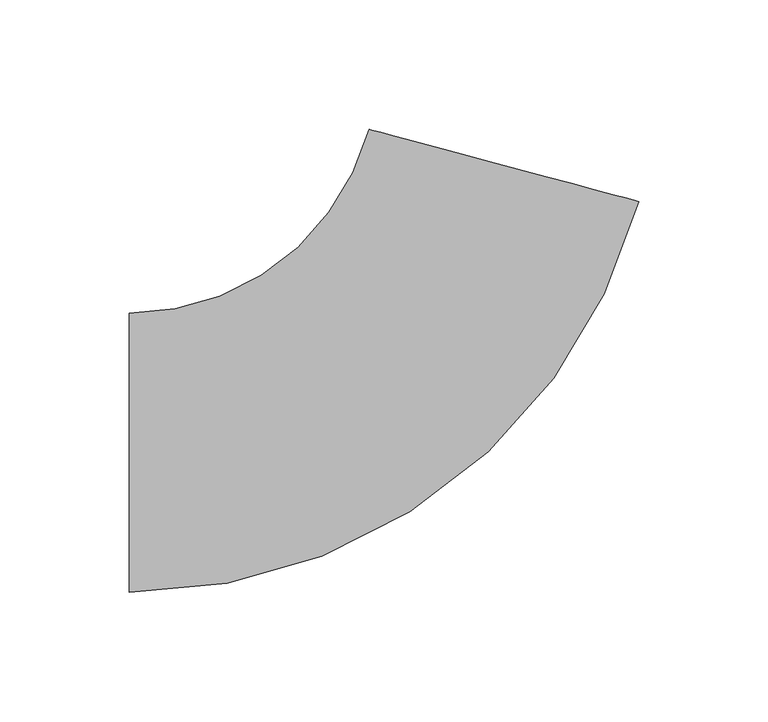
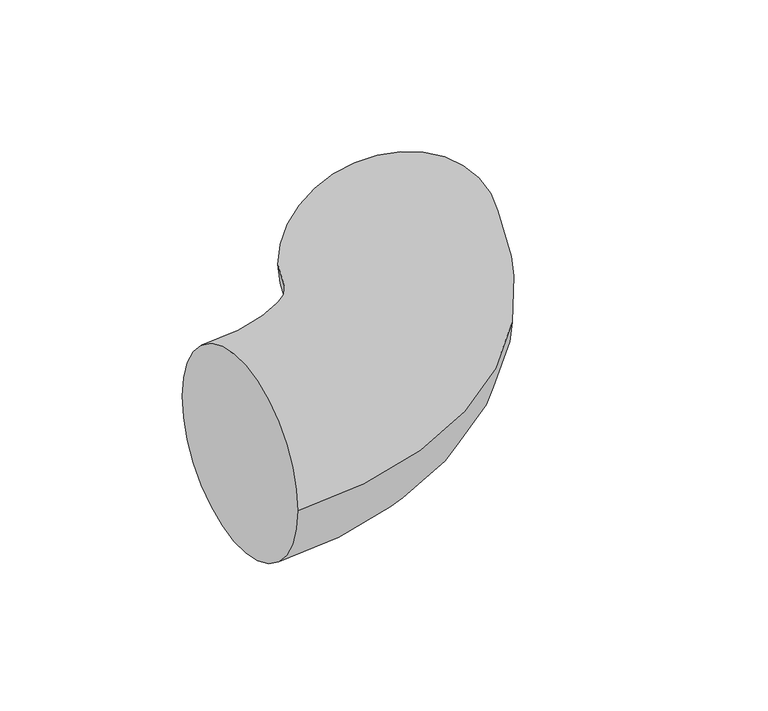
"""IFC4 building model written with IfcOpenShell, lengths in millimetres: pipe fitting geometry, ADSK_ДетальСтальнаяСварная_Отвод_ГОСТ17375-2001 : Исполнение 2."""

from ifc_helpers import new_model, si_unit, point, frame, origin, place, context, project, spatial, circle_curve, ellipse_curve, trimmed, source, transform, mapped, element, save
from ifc_brep_helpers import plane_surface, revolved_surface, advanced_brep


def pipe_fitting_cc9a90fd(model_context):
    return source(origin(), model_context, "Body", "AdvancedBrep", [
        advanced_brep(
        [(-115.0990482, -54.0, 0.0), (-115.0990482, 54.0, 0.0), (81.9498204, 97.2009148, 0.0), (-22.3701689, 125.1533717, 0.0)],
        [
            (0, 1, circle_curve(frame((-115.0990482, 0.0, 0.0), z_axis=(-1.0, 0.0, 0.0), x_axis=(0.0, 1.0, 0.0)), 54.0)),
            (1, 0, circle_curve(frame((-115.0990482, 0.0, 0.0), z_axis=(-1.0, 0.0, 0.0), x_axis=(0.0, 1.0, 0.0)), 54.0)),
            (2, 3, circle_curve(frame((29.7898257, 111.1771432, 0.0), z_axis=(0.2588190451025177, 0.9659258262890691, 0.0), x_axis=(-0.9659258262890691, 0.2588190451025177, 0.0)), 54.0)),
            (3, 2, circle_curve(frame((29.7898257, 111.1771432, 0.0), z_axis=(0.2588190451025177, 0.9659258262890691, 0.0), x_axis=(-0.9659258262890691, 0.2588190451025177, 0.0)), 54.0)),
            (3, 1, circle_curve(frame((-115.0990482, 150.0, 0.0), z_axis=(0.0, 0.0, -1.0), x_axis=(0.0, -1.0, 0.0)), 96.0)),
            (0, 2, circle_curve(frame((-115.0990482, 150.0, 0.0), z_axis=(0.0, 0.0, 1.0), x_axis=(0.0, -1.0, 0.0)), 204.0)),
        ],
        [
            plane_surface(frame((-115.0990482, 0.0, 0.0), z_axis=(-1.0, 0.0, 0.0), x_axis=(0.0, 0.0, 1.0))),
            plane_surface(frame((29.7898257, 111.1771432, 0.0), z_axis=(0.2588190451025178, 0.9659258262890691, 0.0), x_axis=(0.0, 0.0, 1.0))),
            revolved_surface(trimmed(ellipse_curve(frame((-115.0990482, 0.0, 0.0), z_axis=(-1.0, 0.0, 0.0), x_axis=(0.0, 1.0, 0.0)), 54.0, 54.0), [point((-115.0990482, -54.0, 0.0))], [point((-115.0990482, 54.0, 0.0))], True, "CARTESIAN"), (-115.0990482, 150.0, 0.0), (0.0, 0.0, 1.0)),
            revolved_surface(trimmed(ellipse_curve(frame((-115.0990482, 0.0, 0.0), z_axis=(-1.0, 0.0, 0.0), x_axis=(0.0, 1.0, 0.0)), 54.0, 54.0), [point((-115.0990482, 54.0, 0.0))], [point((-115.0990482, -54.0, 0.0))], True, "CARTESIAN"), (-115.0990482, 150.0, 0.0), (0.0, 0.0, 1.0)),
        ],
        [
            (0, [[1, 2]]),
            (1, [[3, 4]]),
            (2, [[5, -1, 6, -4]]),
            (3, [[-6, -2, -5, -3]]),
        ],
    ),
    ])


if __name__ == "__main__":
    model = new_model("IFC4")
    model_context = context("Model", 3, world=origin())
    ifc_project = project(units=[si_unit("LENGTHUNIT", "METRE", prefix="MILLI")], contexts=[model_context])
    site = spatial("IfcSite", under=ifc_project)
    building = spatial("IfcBuilding", under=site)
    placement = place(None, origin())
    pipe_fitting_shape = pipe_fitting_cc9a90fd(model_context)
    element("IfcPipeFitting", 1, ObjectType="ADSK_ДетальСтальнаяСварная_Отвод_ГОСТ17375-2001 : Исполнение 2", at=placement, inside=building, context=model_context, shape_type="MappedRepresentation", body=[
        mapped(pipe_fitting_shape, transform((0.0, 0.0, 0.0), x_axis=(1.0, 0.0, 0.0), y_axis=(0.0, 1.0, 0.0), z_axis=(0.0, 0.0, 1.0))),
    ])
    save(model, "model.ifc")
